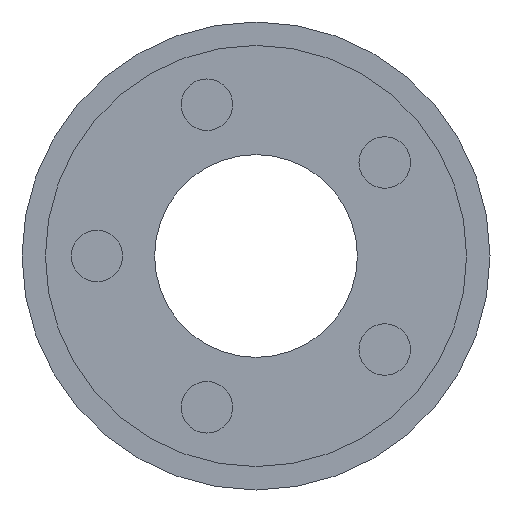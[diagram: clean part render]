
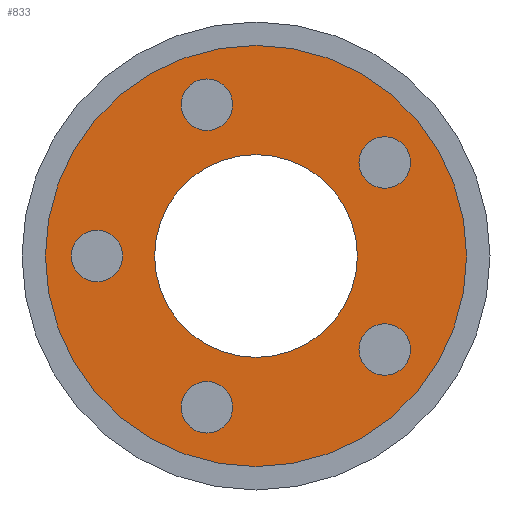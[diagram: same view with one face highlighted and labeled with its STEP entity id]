
A CAD part, left-side view. The second image highlights one B-rep face of the part: STEP entity #833.
In plain terms, the highlighted planar face has unit normal (-1, 0, 0).
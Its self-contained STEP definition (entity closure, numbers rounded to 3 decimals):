
#245 = EDGE_CURVE ( 'NONE', #246, #277, #1463, .T. ) ;
#246 = VERTEX_POINT ( 'NONE', #1458 ) ;
#277 = VERTEX_POINT ( 'NONE', #1480 ) ;
#702 = EDGE_CURVE ( 'NONE', #703, #704, #2191, .T. ) ;
#703 = VERTEX_POINT ( 'NONE', #2192 ) ;
#704 = VERTEX_POINT ( 'NONE', #2250 ) ;
#740 = EDGE_CURVE ( 'NONE', #741, #742, #2315, .T. ) ;
#741 = VERTEX_POINT ( 'NONE', #2310 ) ;
#742 = VERTEX_POINT ( 'NONE', #2309 ) ;
#753 = EDGE_CURVE ( 'NONE', #754, #755, #2286, .T. ) ;
#754 = VERTEX_POINT ( 'NONE', #2345 ) ;
#755 = VERTEX_POINT ( 'NONE', #2344 ) ;
#788 = EDGE_CURVE ( 'NONE', #789, #790, #2409, .T. ) ;
#789 = VERTEX_POINT ( 'NONE', #2400 ) ;
#790 = VERTEX_POINT ( 'NONE', #2399 ) ;
#803 = EDGE_CURVE ( 'NONE', #804, #805, #2435, .T. ) ;
#804 = VERTEX_POINT ( 'NONE', #2431 ) ;
#805 = VERTEX_POINT ( 'NONE', #2430 ) ;
#833 = ADVANCED_FACE ( 'NONE', ( #2444, #2443, #2442, #2507, #2506, #2505, #2504 ), #2502, .T. ) ;
#834 = EDGE_LOOP ( 'NONE', ( #835, #887 ) ) ;
#835 = ORIENTED_EDGE ( 'NONE', *, *, #836, .T. ) ;
#836 = EDGE_CURVE ( 'NONE', #742, #741, #2497, .T. ) ;
#874 = ORIENTED_EDGE ( 'NONE', *, *, #875, .T. ) ;
#875 = EDGE_CURVE ( 'NONE', #805, #804, #2544, .T. ) ;
#876 = ORIENTED_EDGE ( 'NONE', *, *, #803, .T. ) ;
#877 = EDGE_LOOP ( 'NONE', ( #878, #880 ) ) ;
#878 = ORIENTED_EDGE ( 'NONE', *, *, #879, .T. ) ;
#879 = EDGE_CURVE ( 'NONE', #755, #754, #2600, .T. ) ;
#880 = ORIENTED_EDGE ( 'NONE', *, *, #753, .T. ) ;
#881 = EDGE_LOOP ( 'NONE', ( #882, #884 ) ) ;
#882 = ORIENTED_EDGE ( 'NONE', *, *, #883, .T. ) ;
#883 = EDGE_CURVE ( 'NONE', #277, #246, #2595, .T. ) ;
#884 = ORIENTED_EDGE ( 'NONE', *, *, #245, .T. ) ;
#887 = ORIENTED_EDGE ( 'NONE', *, *, #740, .T. ) ;
#888 = EDGE_LOOP ( 'NONE', ( #889, #891 ) ) ;
#889 = ORIENTED_EDGE ( 'NONE', *, *, #890, .T. ) ;
#890 = EDGE_CURVE ( 'NONE', #704, #703, #2583, .T. ) ;
#891 = ORIENTED_EDGE ( 'NONE', *, *, #702, .T. ) ;
#892 = EDGE_LOOP ( 'NONE', ( #893, #894 ) ) ;
#893 = ORIENTED_EDGE ( 'NONE', *, *, #788, .F. ) ;
#894 = ORIENTED_EDGE ( 'NONE', *, *, #895, .F. ) ;
#895 = EDGE_CURVE ( 'NONE', #790, #789, #2579, .T. ) ;
#896 = EDGE_LOOP ( 'NONE', ( #897, #899 ) ) ;
#897 = ORIENTED_EDGE ( 'NONE', *, *, #898, .T. ) ;
#898 = EDGE_CURVE ( 'NONE', #903, #902, #2574, .T. ) ;
#899 = ORIENTED_EDGE ( 'NONE', *, *, #901, .T. ) ;
#900 = EDGE_LOOP ( 'NONE', ( #874, #876 ) ) ;
#901 = EDGE_CURVE ( 'NONE', #902, #903, #2633, .T. ) ;
#902 = VERTEX_POINT ( 'NONE', #2628 ) ;
#903 = VERTEX_POINT ( 'NONE', #2627 ) ;
#1458 = CARTESIAN_POINT ( 'NONE',  ( -17., -8.252, 7.645 ) ) ;
#1459 = DIRECTION ( 'NONE',  ( 0., 0., 1. ) ) ;
#1460 = DIRECTION ( 'NONE',  ( 1., 0., 0. ) ) ;
#1461 = CARTESIAN_POINT ( 'NONE',  ( -17., -8.252, 5.995 ) ) ;
#1462 = AXIS2_PLACEMENT_3D ( 'NONE', #1461, #1460, #1459 ) ;
#1463 = CIRCLE ( 'NONE', #1462, 1.65 ) ;
#1480 = CARTESIAN_POINT ( 'NONE',  ( -17., -8.252, 4.345 ) ) ;
#2187 = DIRECTION ( 'NONE',  ( 0., 0., 1. ) ) ;
#2188 = DIRECTION ( 'NONE',  ( 1., 0., 0. ) ) ;
#2189 = CARTESIAN_POINT ( 'NONE',  ( -17., -8.252, -5.995 ) ) ;
#2190 = AXIS2_PLACEMENT_3D ( 'NONE', #2189, #2188, #2187 ) ;
#2191 = CIRCLE ( 'NONE', #2190, 1.65 ) ;
#2192 = CARTESIAN_POINT ( 'NONE',  ( -17., -8.252, -4.345 ) ) ;
#2250 = CARTESIAN_POINT ( 'NONE',  ( -17., -8.252, -7.645 ) ) ;
#2283 = DIRECTION ( 'NONE',  ( 0., 0., 1. ) ) ;
#2284 = DIRECTION ( 'NONE',  ( 1., 0., 0. ) ) ;
#2285 = AXIS2_PLACEMENT_3D ( 'NONE', #2293, #2284, #2283 ) ;
#2286 = CIRCLE ( 'NONE', #2285, 1.65 ) ;
#2293 = CARTESIAN_POINT ( 'NONE',  ( -17., 3.152, -9.701 ) ) ;
#2309 = CARTESIAN_POINT ( 'NONE',  ( -17., 3.152, 8.051 ) ) ;
#2310 = CARTESIAN_POINT ( 'NONE',  ( -17., 3.152, 11.351 ) ) ;
#2311 = DIRECTION ( 'NONE',  ( 0., 0., 1. ) ) ;
#2312 = DIRECTION ( 'NONE',  ( 1., 0., 0. ) ) ;
#2313 = CARTESIAN_POINT ( 'NONE',  ( -17., 3.152, 9.701 ) ) ;
#2314 = AXIS2_PLACEMENT_3D ( 'NONE', #2313, #2312, #2311 ) ;
#2315 = CIRCLE ( 'NONE', #2314, 1.65 ) ;
#2344 = CARTESIAN_POINT ( 'NONE',  ( -17., 3.152, -11.351 ) ) ;
#2345 = CARTESIAN_POINT ( 'NONE',  ( -17., 3.152, -8.051 ) ) ;
#2399 = CARTESIAN_POINT ( 'NONE',  ( -17., 0., 13.5 ) ) ;
#2400 = CARTESIAN_POINT ( 'NONE',  ( -17., 0., -13.5 ) ) ;
#2401 = DIRECTION ( 'NONE',  ( 0., 0., -1. ) ) ;
#2402 = DIRECTION ( 'NONE',  ( 1., 0., 0. ) ) ;
#2403 = CARTESIAN_POINT ( 'NONE',  ( -17., 0., 0. ) ) ;
#2404 = AXIS2_PLACEMENT_3D ( 'NONE', #2403, #2402, #2401 ) ;
#2409 = CIRCLE ( 'NONE', #2404, 13.5 ) ;
#2430 = CARTESIAN_POINT ( 'NONE',  ( -17., 10.2, -1.65 ) ) ;
#2431 = CARTESIAN_POINT ( 'NONE',  ( -17., 10.2, 1.65 ) ) ;
#2432 = DIRECTION ( 'NONE',  ( 0., 0., 1. ) ) ;
#2433 = DIRECTION ( 'NONE',  ( 1., 0., 0. ) ) ;
#2434 = AXIS2_PLACEMENT_3D ( 'NONE', #2441, #2433, #2432 ) ;
#2435 = CIRCLE ( 'NONE', #2434, 1.65 ) ;
#2441 = CARTESIAN_POINT ( 'NONE',  ( -17., 10.2, 0. ) ) ;
#2442 = FACE_OUTER_BOUND ( 'NONE', #892, .T. ) ;
#2443 = FACE_BOUND ( 'NONE', #888, .T. ) ;
#2444 = FACE_BOUND ( 'NONE', #834, .T. ) ;
#2494 = DIRECTION ( 'NONE',  ( 0., 0., 1. ) ) ;
#2495 = DIRECTION ( 'NONE',  ( 1., 0., 0. ) ) ;
#2496 = AXIS2_PLACEMENT_3D ( 'NONE', #2503, #2495, #2494 ) ;
#2497 = CIRCLE ( 'NONE', #2496, 1.65 ) ;
#2498 = DIRECTION ( 'NONE',  ( 0., 0., 1. ) ) ;
#2499 = DIRECTION ( 'NONE',  ( -1., 0., 0. ) ) ;
#2500 = CARTESIAN_POINT ( 'NONE',  ( -17., 13.5, 0. ) ) ;
#2501 = AXIS2_PLACEMENT_3D ( 'NONE', #2500, #2499, #2498 ) ;
#2502 = PLANE ( 'NONE',  #2501 ) ;
#2503 = CARTESIAN_POINT ( 'NONE',  ( -17., 3.152, 9.701 ) ) ;
#2504 = FACE_BOUND ( 'NONE', #881, .T. ) ;
#2505 = FACE_BOUND ( 'NONE', #877, .T. ) ;
#2506 = FACE_BOUND ( 'NONE', #900, .T. ) ;
#2507 = FACE_BOUND ( 'NONE', #896, .T. ) ;
#2540 = DIRECTION ( 'NONE',  ( 0., 0., 1. ) ) ;
#2541 = DIRECTION ( 'NONE',  ( 1., 0., 0. ) ) ;
#2542 = CARTESIAN_POINT ( 'NONE',  ( -17., 10.2, 0. ) ) ;
#2543 = AXIS2_PLACEMENT_3D ( 'NONE', #2542, #2541, #2540 ) ;
#2544 = CIRCLE ( 'NONE', #2543, 1.65 ) ;
#2570 = DIRECTION ( 'NONE',  ( 0., 0., -1. ) ) ;
#2571 = DIRECTION ( 'NONE',  ( 1., 0., 0. ) ) ;
#2572 = CARTESIAN_POINT ( 'NONE',  ( -17., 0., 0. ) ) ;
#2573 = AXIS2_PLACEMENT_3D ( 'NONE', #2572, #2571, #2570 ) ;
#2574 = CIRCLE ( 'NONE', #2573, 6.5 ) ;
#2575 = DIRECTION ( 'NONE',  ( 0., 0., -1. ) ) ;
#2576 = DIRECTION ( 'NONE',  ( 1., 0., 0. ) ) ;
#2577 = CARTESIAN_POINT ( 'NONE',  ( -17., 0., 0. ) ) ;
#2578 = AXIS2_PLACEMENT_3D ( 'NONE', #2577, #2576, #2575 ) ;
#2579 = CIRCLE ( 'NONE', #2578, 13.5 ) ;
#2580 = DIRECTION ( 'NONE',  ( 0., 0., 1. ) ) ;
#2581 = DIRECTION ( 'NONE',  ( 1., 0., 0. ) ) ;
#2582 = AXIS2_PLACEMENT_3D ( 'NONE', #2588, #2581, #2580 ) ;
#2583 = CIRCLE ( 'NONE', #2582, 1.65 ) ;
#2588 = CARTESIAN_POINT ( 'NONE',  ( -17., -8.252, -5.995 ) ) ;
#2591 = DIRECTION ( 'NONE',  ( 0., 0., 1. ) ) ;
#2592 = DIRECTION ( 'NONE',  ( 1., 0., 0. ) ) ;
#2593 = CARTESIAN_POINT ( 'NONE',  ( -17., -8.252, 5.995 ) ) ;
#2594 = AXIS2_PLACEMENT_3D ( 'NONE', #2593, #2592, #2591 ) ;
#2595 = CIRCLE ( 'NONE', #2594, 1.65 ) ;
#2596 = DIRECTION ( 'NONE',  ( 0., 0., 1. ) ) ;
#2597 = DIRECTION ( 'NONE',  ( 1., 0., 0. ) ) ;
#2598 = CARTESIAN_POINT ( 'NONE',  ( -17., 3.152, -9.701 ) ) ;
#2599 = AXIS2_PLACEMENT_3D ( 'NONE', #2598, #2597, #2596 ) ;
#2600 = CIRCLE ( 'NONE', #2599, 1.65 ) ;
#2627 = CARTESIAN_POINT ( 'NONE',  ( -17., 0., -6.5 ) ) ;
#2628 = CARTESIAN_POINT ( 'NONE',  ( -17., 0., 6.5 ) ) ;
#2629 = DIRECTION ( 'NONE',  ( 0., 0., -1. ) ) ;
#2630 = DIRECTION ( 'NONE',  ( 1., 0., 0. ) ) ;
#2631 = CARTESIAN_POINT ( 'NONE',  ( -17., 0., 0. ) ) ;
#2632 = AXIS2_PLACEMENT_3D ( 'NONE', #2631, #2630, #2629 ) ;
#2633 = CIRCLE ( 'NONE', #2632, 6.5 ) ;
